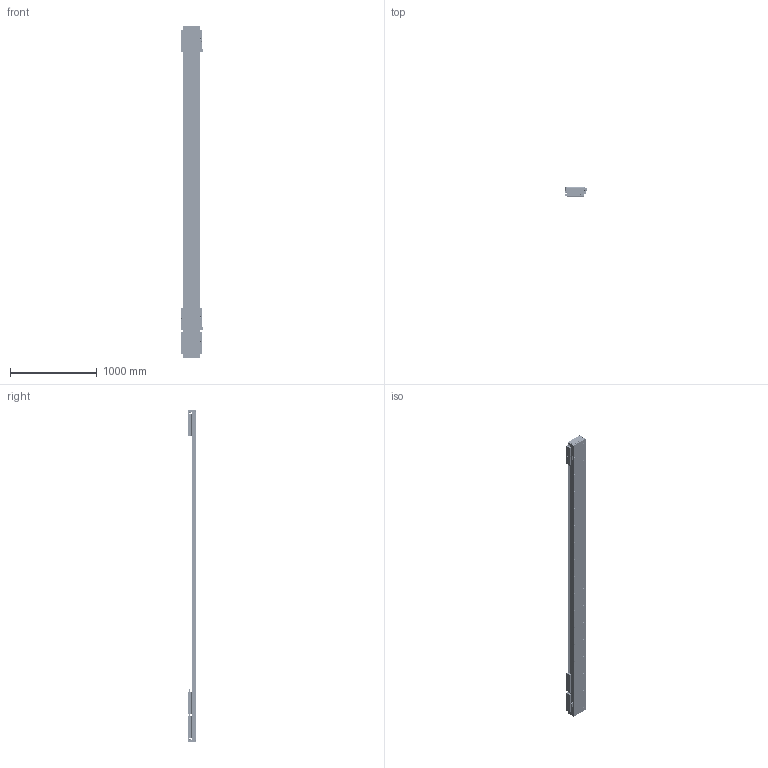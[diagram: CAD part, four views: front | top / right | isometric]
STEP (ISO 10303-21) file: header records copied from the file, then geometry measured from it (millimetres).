
FILE_DESCRIPTION (( 'STEP AP203' ), '1' );
FILE_NAME ('DA-C195-3-C3-T2920-C010-0.2-HG-29581.STEP', '2024-11-14T10:39:42', ( '微软用户' ), ( '微软中国' ), 'SwSTEP 2.0', 'SolidWorks 2019', '' );
FILE_SCHEMA (( 'CONFIG_CONTROL_DESIGN' ));
Length unit declared in the file: millimetre
Products named in the file (21): DKW-DG-KGZ-H-00 光电开关固定座-22韩国; DA195-HG-GYP-00 嫖萇覜茼え-22澈弊; DA95-HXJ-00 遣喳砎蝶; MS200 棠掑喜S315-T240-2詩湍; EE_SX674A-2詩湍; IU-CU195-L-00 菁釱-2詩湍_L3780; DKW-GYP-ZJ-00 中间光电感应片-2钢带; LMT黍杅芛-2詩湍; DKW-KGZ-ZJ-00 中间光电开关支架-2钢带; 葩璃 DA95-GT-T-00-2詩湍_T780; DA95-HXJ-00 遣喳砎蝶-2詩湍; pm-y65-22澈弊; DA195詩湍菜輸; DA195詩湍嶺輸; CU195-C3賑輸-俋楷-2詩湍; DA195詩湍裔啣; IU-CU195-L 菁釱絳寢-2詩湍; DKW168-HXJ-ZJ-00 中间防撞橡胶-2钢带; DA195詩湍郪璃; DA-C195-GD-DB-H-00 傷啣; DA-C195-3-C3-T2920-C010-0.2-HG-29581
Assembly tree (49 placements, depth 3):
  DA-C195-3-C3-T2920-C010-0.2-HG-29581
    LMT黍杅芛-2詩湍  x3
    MS200 棠掑喜S315-T240-2詩湍
    DA95-HXJ-00 遣喳砎蝶-2詩湍  x4
    DKW-GYP-ZJ-00 中间光电感应片-2钢带  x2
    DKW-KGZ-ZJ-00 中间光电开关支架-2钢带  x2
    EE_SX674A-2詩湍  x2
    CU195-C3賑輸-俋楷-2詩湍  x3
    DKW168-HXJ-ZJ-00 中间防撞橡胶-2钢带  x2
    IU-CU195-L 菁釱絳寢-2詩湍
      IU-CU195-L-00 菁釱-2詩湍_L3780
      葩璃 DA95-GT-T-00-2詩湍_T780  x4
    DA195詩湍郪璃
      DA-C195-GD-DB-H-00 傷啣  x2
      DA195詩湍菜輸  x2
      DA195詩湍裔啣
      DA195詩湍嶺輸  x2
      DA95-HXJ-00 遣喳砎蝶  x8
    DA195-HG-GYP-00 嫖萇覜茼え-22澈弊  x2
    DKW-DG-KGZ-H-00 光电开关固定座-22韩国  x2
    pm-y65-22澈弊  x4
Bounding box: 248 x 102 x 3820 mm (x, y, z)
Volume: 24663848.8 mm3; surface area: 7098347.3 mm2
Topology: 224 solids, 320 shells, 9839 faces, 26269 edges, 16337 vertices
Faces by surface type: cylinder 4680, plane 3657, cone 1262, torus 132, sphere 108
Entity records: 173939 total; most frequent: CARTESIAN_POINT 49416, ORIENTED_EDGE 26374, DIRECTION 24518, EDGE_CURVE 13187, AXIS2_PLACEMENT_3D 9144, VERTEX_POINT 8570, LINE 6230, VECTOR 6230
